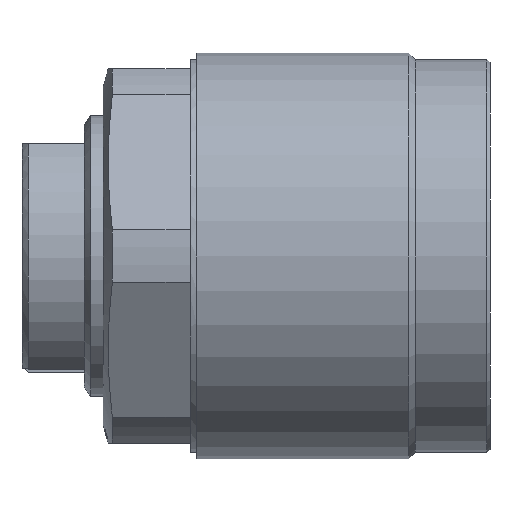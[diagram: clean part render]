
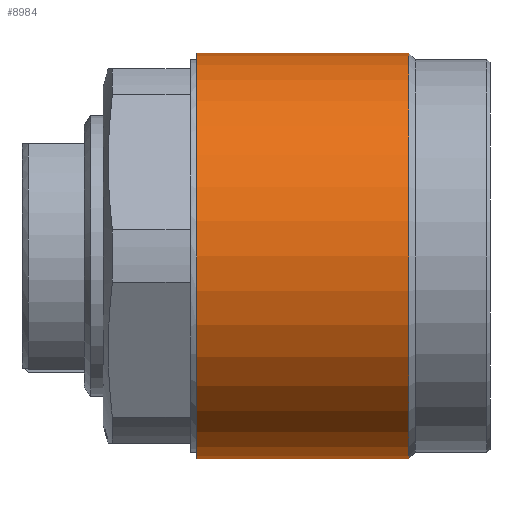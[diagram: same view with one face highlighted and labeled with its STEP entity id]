
A CAD part, left-side view. The second image highlights one B-rep face of the part: STEP entity #8984.
In plain terms, the highlighted cylindrical face has radius 32.5 mm (diameter 65 mm), a partial arc.
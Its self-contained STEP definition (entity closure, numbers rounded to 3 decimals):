
#74 = CARTESIAN_POINT ( 'NONE',  ( 0., 20.127, -32.5 ) ) ;
#97 = DIRECTION ( 'NONE',  ( 0., -1., 0. ) ) ;
#567 = CARTESIAN_POINT ( 'NONE',  ( 0., -54.764, 0. ) ) ;
#1168 = EDGE_CURVE ( 'NONE', #3651, #4288, #6466, .T. ) ;
#1509 = DIRECTION ( 'NONE',  ( 0., -1., 0. ) ) ;
#1706 = ORIENTED_EDGE ( 'NONE', *, *, #2367, .T. ) ;
#2227 = VERTEX_POINT ( 'NONE', #74 ) ;
#2331 = AXIS2_PLACEMENT_3D ( 'NONE', #6009, #97, #7039 ) ;
#2344 = CARTESIAN_POINT ( 'NONE',  ( 0., -54.764, 32.5 ) ) ;
#2367 = EDGE_CURVE ( 'NONE', #3651, #2227, #2798, .T. ) ;
#2578 = LINE ( 'NONE', #11965, #7658 ) ;
#2798 = CIRCLE ( 'NONE', #2331, 32.5 ) ;
#2842 = AXIS2_PLACEMENT_3D ( 'NONE', #4962, #12064, #5992 ) ;
#3269 = DIRECTION ( 'NONE',  ( 0., 0., -1. ) ) ;
#3651 = VERTEX_POINT ( 'NONE', #5090 ) ;
#3801 = CYLINDRICAL_SURFACE ( 'NONE', #12911, 32.5 ) ;
#4288 = VERTEX_POINT ( 'NONE', #6265 ) ;
#4861 = DIRECTION ( 'NONE',  ( 0., -1., 0. ) ) ;
#4962 = CARTESIAN_POINT ( 'NONE',  ( 0., -13.899, 0. ) ) ;
#5090 = CARTESIAN_POINT ( 'NONE',  ( 0., 20.127, 32.5 ) ) ;
#5992 = DIRECTION ( 'NONE',  ( 0., 0., -1. ) ) ;
#6009 = CARTESIAN_POINT ( 'NONE',  ( 0., 20.127, 0. ) ) ;
#6265 = CARTESIAN_POINT ( 'NONE',  ( 0., -13.899, 32.5 ) ) ;
#6306 = EDGE_CURVE ( 'NONE', #2227, #9203, #2578, .T. ) ;
#6466 = LINE ( 'NONE', #2344, #9114 ) ;
#7039 = DIRECTION ( 'NONE',  ( 0., 0., -1. ) ) ;
#7658 = VECTOR ( 'NONE', #4861, 1000. ) ;
#8984 = ADVANCED_FACE ( 'NONE', ( #11911 ), #3801, .T. ) ;
#9114 = VECTOR ( 'NONE', #12803, 1000. ) ;
#9203 = VERTEX_POINT ( 'NONE', #11062 ) ;
#9762 = EDGE_LOOP ( 'NONE', ( #11280, #1706, #10982, #11259 ) ) ;
#10583 = CIRCLE ( 'NONE', #2842, 32.5 ) ;
#10982 = ORIENTED_EDGE ( 'NONE', *, *, #6306, .T. ) ;
#11062 = CARTESIAN_POINT ( 'NONE',  ( 0., -13.899, -32.5 ) ) ;
#11233 = EDGE_CURVE ( 'NONE', #4288, #9203, #10583, .T. ) ;
#11259 = ORIENTED_EDGE ( 'NONE', *, *, #11233, .F. ) ;
#11280 = ORIENTED_EDGE ( 'NONE', *, *, #1168, .F. ) ;
#11911 = FACE_OUTER_BOUND ( 'NONE', #9762, .T. ) ;
#11965 = CARTESIAN_POINT ( 'NONE',  ( 0., -54.764, -32.5 ) ) ;
#12064 = DIRECTION ( 'NONE',  ( 0., -1., 0. ) ) ;
#12803 = DIRECTION ( 'NONE',  ( 0., -1., 0. ) ) ;
#12911 = AXIS2_PLACEMENT_3D ( 'NONE', #567, #1509, #3269 ) ;
